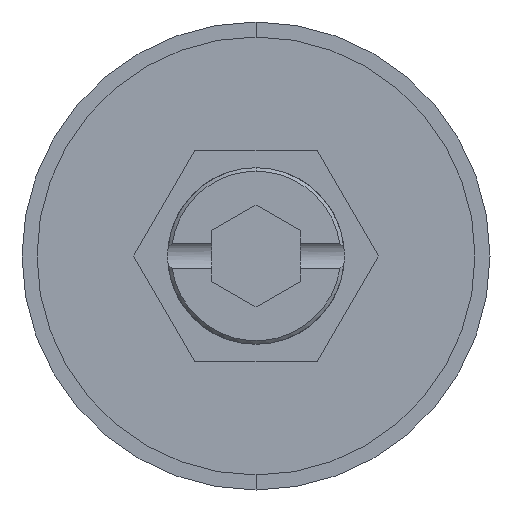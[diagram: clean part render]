
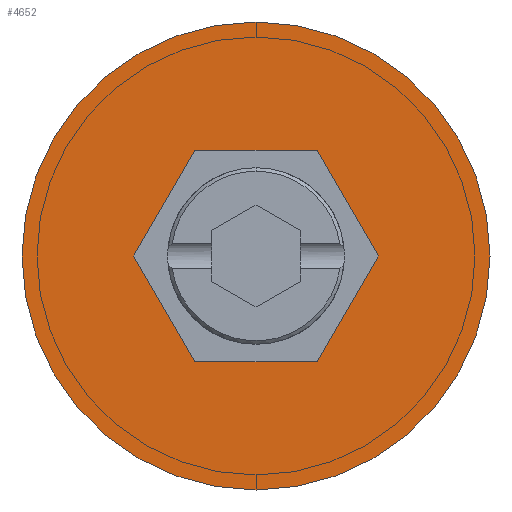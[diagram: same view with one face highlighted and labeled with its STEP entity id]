
A CAD part, front view. The second image highlights one B-rep face of the part: STEP entity #4652.
In plain terms, the highlighted planar face has unit normal (0, -1, 0).
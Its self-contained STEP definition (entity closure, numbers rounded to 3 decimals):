
#85 = LINE ( 'NONE', #4243, #886 ) ;
#198 = EDGE_CURVE ( 'NONE', #2882, #1798, #646, .T. ) ;
#213 = LINE ( 'NONE', #2253, #3976 ) ;
#276 = CARTESIAN_POINT ( 'NONE',  ( 3.464, 0., 6. ) ) ;
#291 = VERTEX_POINT ( 'NONE', #434 ) ;
#313 = EDGE_CURVE ( 'NONE', #1798, #1245, #2125, .T. ) ;
#343 = EDGE_CURVE ( 'NONE', #768, #2087, #213, .T. ) ;
#396 = CIRCLE ( 'NONE', #2637, 13.25 ) ;
#417 = VECTOR ( 'NONE', #1390, 1000. ) ;
#434 = CARTESIAN_POINT ( 'NONE',  ( 0., 0., -13.25 ) ) ;
#435 = CARTESIAN_POINT ( 'NONE',  ( 6.928, 0., 0. ) ) ;
#485 = FACE_BOUND ( 'NONE', #523, .T. ) ;
#523 = EDGE_LOOP ( 'NONE', ( #1660, #3516, #4481, #2519, #1429, #2284 ) ) ;
#646 = LINE ( 'NONE', #1764, #417 ) ;
#722 = LINE ( 'NONE', #3997, #1448 ) ;
#768 = VERTEX_POINT ( 'NONE', #869 ) ;
#802 = DIRECTION ( 'NONE',  ( 0., 0., -1. ) ) ;
#809 = CARTESIAN_POINT ( 'NONE',  ( -3.464, 0., -6. ) ) ;
#835 = CIRCLE ( 'NONE', #2158, 13.25 ) ;
#869 = CARTESIAN_POINT ( 'NONE',  ( 3.464, 0., -6. ) ) ;
#886 = VECTOR ( 'NONE', #4021, 1000. ) ;
#910 = CARTESIAN_POINT ( 'NONE',  ( -3.464, 0., 6. ) ) ;
#966 = DIRECTION ( 'NONE',  ( 0., -1., 0. ) ) ;
#973 = CARTESIAN_POINT ( 'NONE',  ( 0., 0., 13.25 ) ) ;
#1032 = EDGE_CURVE ( 'NONE', #1245, #4431, #85, .T. ) ;
#1137 = VECTOR ( 'NONE', #2604, 1000. ) ;
#1145 = CARTESIAN_POINT ( 'NONE',  ( -3.464, 0., 6. ) ) ;
#1245 = VERTEX_POINT ( 'NONE', #2533 ) ;
#1390 = DIRECTION ( 'NONE',  ( -1., 0., 0. ) ) ;
#1429 = ORIENTED_EDGE ( 'NONE', *, *, #2357, .F. ) ;
#1448 = VECTOR ( 'NONE', #1781, 1000. ) ;
#1612 = CARTESIAN_POINT ( 'NONE',  ( 0., 0., 0. ) ) ;
#1660 = ORIENTED_EDGE ( 'NONE', *, *, #3336, .F. ) ;
#1764 = CARTESIAN_POINT ( 'NONE',  ( 3.464, 0., 6. ) ) ;
#1781 = DIRECTION ( 'NONE',  ( 1., 0., 0. ) ) ;
#1798 = VERTEX_POINT ( 'NONE', #910 ) ;
#2087 = VERTEX_POINT ( 'NONE', #435 ) ;
#2101 = VECTOR ( 'NONE', #3001, 1000. ) ;
#2114 = CARTESIAN_POINT ( 'NONE',  ( 0., 0., 0. ) ) ;
#2125 = LINE ( 'NONE', #1145, #1137 ) ;
#2158 = AXIS2_PLACEMENT_3D ( 'NONE', #1612, #2334, #2697 ) ;
#2171 = EDGE_LOOP ( 'NONE', ( #2178, #2916 ) ) ;
#2178 = ORIENTED_EDGE ( 'NONE', *, *, #2191, .T. ) ;
#2191 = EDGE_CURVE ( 'NONE', #291, #2856, #835, .T. ) ;
#2253 = CARTESIAN_POINT ( 'NONE',  ( 3.464, 0., -6. ) ) ;
#2284 = ORIENTED_EDGE ( 'NONE', *, *, #343, .F. ) ;
#2286 = EDGE_CURVE ( 'NONE', #2856, #291, #396, .T. ) ;
#2297 = FACE_OUTER_BOUND ( 'NONE', #2171, .T. ) ;
#2334 = DIRECTION ( 'NONE',  ( 0., -1., 0. ) ) ;
#2357 = EDGE_CURVE ( 'NONE', #2087, #2882, #4300, .T. ) ;
#2519 = ORIENTED_EDGE ( 'NONE', *, *, #198, .F. ) ;
#2533 = CARTESIAN_POINT ( 'NONE',  ( -6.928, 0., 0. ) ) ;
#2604 = DIRECTION ( 'NONE',  ( -0.5, 0., -0.866 ) ) ;
#2630 = CARTESIAN_POINT ( 'NONE',  ( 6.928, 0., 0. ) ) ;
#2637 = AXIS2_PLACEMENT_3D ( 'NONE', #2114, #4316, #802 ) ;
#2697 = DIRECTION ( 'NONE',  ( 0., 0., -1. ) ) ;
#2856 = VERTEX_POINT ( 'NONE', #973 ) ;
#2882 = VERTEX_POINT ( 'NONE', #276 ) ;
#2916 = ORIENTED_EDGE ( 'NONE', *, *, #2286, .T. ) ;
#3001 = DIRECTION ( 'NONE',  ( -0.5, 0., 0.866 ) ) ;
#3336 = EDGE_CURVE ( 'NONE', #4431, #768, #722, .T. ) ;
#3516 = ORIENTED_EDGE ( 'NONE', *, *, #1032, .F. ) ;
#3723 = DIRECTION ( 'NONE',  ( 0.5, 0., 0.866 ) ) ;
#3918 = CARTESIAN_POINT ( 'NONE',  ( 0., 0., 0. ) ) ;
#3976 = VECTOR ( 'NONE', #3723, 1000. ) ;
#3997 = CARTESIAN_POINT ( 'NONE',  ( -3.464, 0., -6. ) ) ;
#4006 = AXIS2_PLACEMENT_3D ( 'NONE', #3918, #966, #4649 ) ;
#4021 = DIRECTION ( 'NONE',  ( 0.5, 0., -0.866 ) ) ;
#4243 = CARTESIAN_POINT ( 'NONE',  ( -6.928, 0., 0. ) ) ;
#4287 = PLANE ( 'NONE',  #4006 ) ;
#4300 = LINE ( 'NONE', #2630, #2101 ) ;
#4316 = DIRECTION ( 'NONE',  ( 0., -1., 0. ) ) ;
#4431 = VERTEX_POINT ( 'NONE', #809 ) ;
#4481 = ORIENTED_EDGE ( 'NONE', *, *, #313, .F. ) ;
#4649 = DIRECTION ( 'NONE',  ( 0., 0., -1. ) ) ;
#4652 = ADVANCED_FACE ( 'NONE', ( #485, #2297 ), #4287, .T. ) ;
